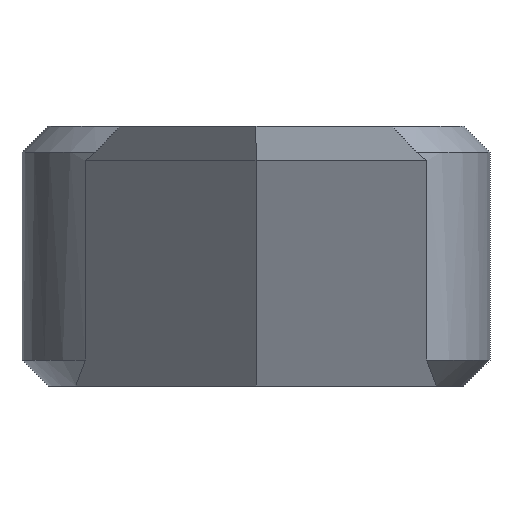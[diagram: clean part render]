
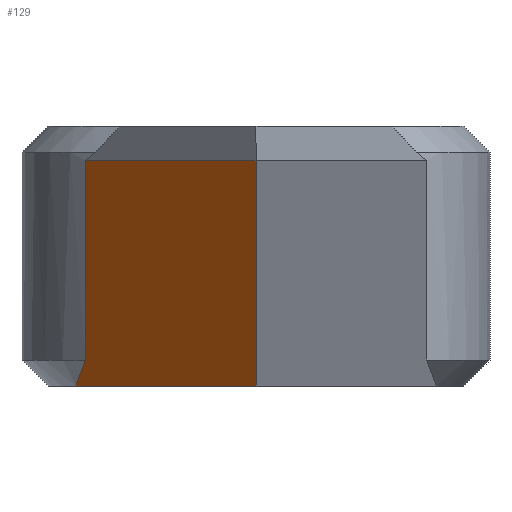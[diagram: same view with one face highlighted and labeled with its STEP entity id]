
A CAD part, front view. The second image highlights one B-rep face of the part: STEP entity #129.
In plain terms, the highlighted planar face has unit normal (-0.986, -0.165, 0).
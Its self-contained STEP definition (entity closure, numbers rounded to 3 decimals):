
#31 = VECTOR ( 'NONE', #999, 1000. ) ;
#33 = DIRECTION ( 'NONE',  ( 0., 0., -1. ) ) ;
#40 = FACE_OUTER_BOUND ( 'NONE', #83, .T. ) ;
#46 = CARTESIAN_POINT ( 'NONE',  ( -2.463, 1.067, 3.25 ) ) ;
#61 = CARTESIAN_POINT ( 'NONE',  ( -2.463, 1.067, 0.375 ) ) ;
#78 = VECTOR ( 'NONE', #33, 1000. ) ;
#83 = EDGE_LOOP ( 'NONE', ( #355, #734, #714, #825, #698 ) ) ;
#86 = AXIS2_PLACEMENT_3D ( 'NONE', #531, #778, #514 ) ;
#89 = DIRECTION ( 'NONE',  ( 0.165, -0.986, 0. ) ) ;
#129 = ADVANCED_FACE ( 'NONE', ( #40 ), #212, .F. ) ;
#153 = EDGE_CURVE ( 'NONE', #637, #950, #944, .T. ) ;
#162 = LINE ( 'NONE', #804, #675 ) ;
#180 = VERTEX_POINT ( 'NONE', #292 ) ;
#212 = PLANE ( 'NONE',  #86 ) ;
#266 = CARTESIAN_POINT ( 'NONE',  ( 0., -13.625, 3.75 ) ) ;
#292 = CARTESIAN_POINT ( 'NONE',  ( 0., -13.625, 0. ) ) ;
#351 = CARTESIAN_POINT ( 'NONE',  ( -2.598, 1.875, 0. ) ) ;
#355 = ORIENTED_EDGE ( 'NONE', *, *, #554, .T. ) ;
#372 = CARTESIAN_POINT ( 'NONE',  ( -2.506, 1.328, 0.229 ) ) ;
#451 = EDGE_CURVE ( 'NONE', #950, #180, #162, .T. ) ;
#479 = EDGE_CURVE ( 'NONE', #984, #180, #529, .T. ) ;
#514 = DIRECTION ( 'NONE',  ( -0.165, 0.986, 0. ) ) ;
#516 = CARTESIAN_POINT ( 'NONE',  ( -2.598, 1.875, 0. ) ) ;
#529 = LINE ( 'NONE', #266, #78 ) ;
#531 = CARTESIAN_POINT ( 'NONE',  ( 0., -13.625, 3.75 ) ) ;
#553 = CARTESIAN_POINT ( 'NONE',  ( 0., -13.625, 3.25 ) ) ;
#554 = EDGE_CURVE ( 'NONE', #984, #880, #938, .T. ) ;
#609 = CARTESIAN_POINT ( 'NONE',  ( -2.463, 1.067, 0.375 ) ) ;
#637 = VERTEX_POINT ( 'NONE', #609 ) ;
#675 = VECTOR ( 'NONE', #89, 1000. ) ;
#692 = CARTESIAN_POINT ( 'NONE',  ( -2.551, 1.596, 0.099 ) ) ;
#698 = ORIENTED_EDGE ( 'NONE', *, *, #479, .F. ) ;
#714 = ORIENTED_EDGE ( 'NONE', *, *, #153, .T. ) ;
#718 = LINE ( 'NONE', #723, #885 ) ;
#723 = CARTESIAN_POINT ( 'NONE',  ( -2.463, 1.067, 1.875 ) ) ;
#734 = ORIENTED_EDGE ( 'NONE', *, *, #1035, .T. ) ;
#778 = DIRECTION ( 'NONE',  ( 0.986, 0.165, 0. ) ) ;
#804 = CARTESIAN_POINT ( 'NONE',  ( 0., -13.625, 0. ) ) ;
#825 = ORIENTED_EDGE ( 'NONE', *, *, #451, .T. ) ;
#834 = CARTESIAN_POINT ( 'NONE',  ( -2.598, 1.875, 3.25 ) ) ;
#880 = VERTEX_POINT ( 'NONE', #46 ) ;
#885 = VECTOR ( 'NONE', #963, 1000. ) ;
#938 = LINE ( 'NONE', #834, #31 ) ;
#944 = B_SPLINE_CURVE_WITH_KNOTS ( 'NONE', 3,
 ( #61, #372, #692, #351 ),
 .UNSPECIFIED., .F., .F.,
 ( 4, 4 ),
 ( 0., 0.001 ),
 .UNSPECIFIED. ) ;
#950 = VERTEX_POINT ( 'NONE', #516 ) ;
#963 = DIRECTION ( 'NONE',  ( 0., 0., -1. ) ) ;
#984 = VERTEX_POINT ( 'NONE', #553 ) ;
#999 = DIRECTION ( 'NONE',  ( -0.165, 0.986, 0. ) ) ;
#1035 = EDGE_CURVE ( 'NONE', #880, #637, #718, .T. ) ;
